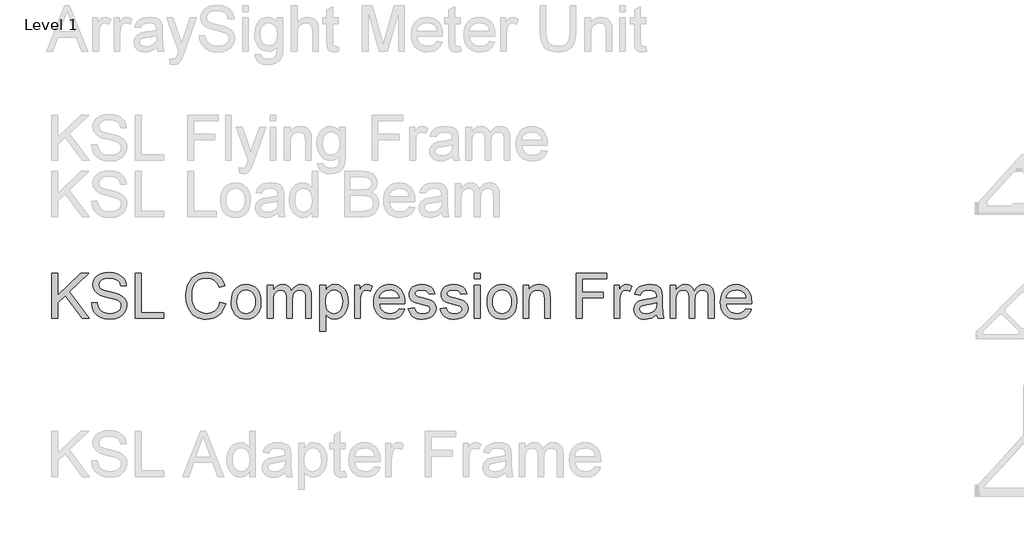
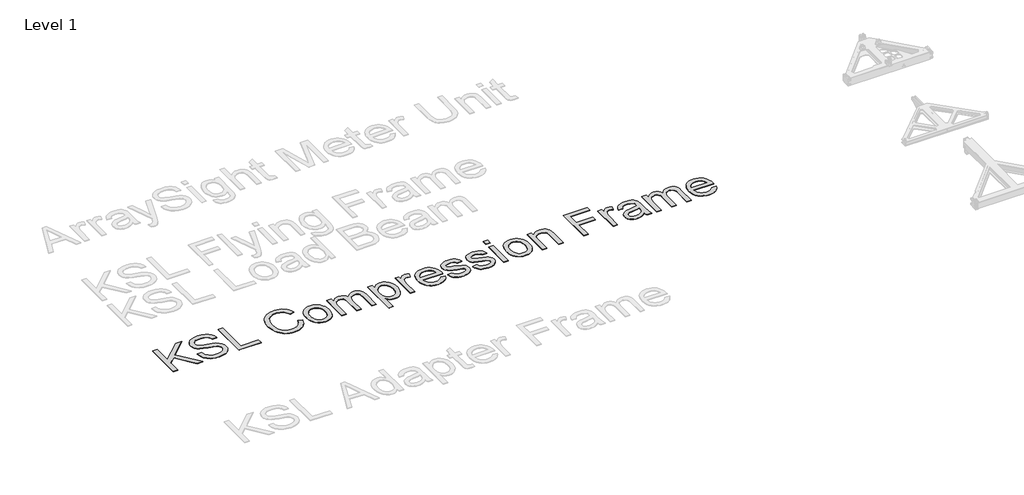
# One storey, part 18 of 52: 1 proxy.
"""IFC4 building model written with IfcOpenShell, lengths in millimetres."""

from ifc_helpers import new_model, si_unit, origin, origin_with_axes, place, context, project, spatial, polyline, outline, extrude, element, save

model = new_model("IFC4")

# Units and contexts
model_context = context("Model", 3, world=origin())
ifc_project = project(units=[si_unit("LENGTHUNIT", "METRE", prefix="MILLI")], contexts=[model_context])

# Site, building, storey
site = spatial("IfcSite", under=ifc_project)
building = spatial("IfcBuilding", under=site)
storey = spatial("IfcBuildingStorey", under=building, Name="Level 1", Elevation=0.0)

# Proxy
placement = place(None, origin())
element("IfcBuildingElementProxy", 1, Name="400mm Arial", ObjectType="400mm Arial", at=placement, inside=storey, context=model_context, shape_type="SweptSolid", body=[
    extrude(outline(polyline([(-18951.0715058, -56622.6117308), (-18951.0715058, -56220.7864902), (-18900.8433507, -56220.7864902), (-18900.8433507, -56417.4807303), (-18694.8294334, -56220.7864902), (-18624.5884978, -56220.7864902), (-18797.5420864, -56385.9900315), (-18618.3099784, -56622.6117308), (-18679.7217461, -56622.6117308), (-18833.1530636, -56419.933277), (-18900.8433507, -56484.4843044), (-18900.8433507, -56622.6117308), (-18951.0715058, -56622.6117308)])), origin_with_axes(), (0.0, 0.0, 1.0), 5.0),
    extrude(outline(polyline([(-18599.4744202, -56484.4843044), (-18549.2462652, -56484.4843044), (-18543.4827806, -56512.3574969), (-18533.0594574, -56534.7615104), (-18516.7990732, -56552.5424735), (-18493.5244056, -56566.5465148), (-18465.0748647, -56575.6332001), (-18433.2898603, -56578.6620952), (-18405.3063032, -56576.3689641), (-18380.8053623, -56569.4895707), (-18360.9519973, -56558.6002637), (-18346.9111678, -56544.2773913), (-18338.5602465, -56527.8330662), (-18335.7766061, -56510.5794006), (-18337.8612707, -56493.7671934), (-18344.1152646, -56479.2358546), (-18356.8194562, -56466.8382314), (-18378.2547138, -56456.4271709), (-18451.3896544, -56437.2482562), (-18499.3982548, -56424.5563274), (-18530.1164014, -56412.4775352), (-18555.1201143, -56395.5794889), (-18572.8397638, -56375.1007245), (-18583.397977, -56351.4827004), (-18586.9173815, -56325.166875), (-18582.5641112, -56295.7485781), (-18569.5043004, -56268.316844), (-18548.0813055, -56245.0667019), (-18518.6384832, -56228.1931811), (-18483.2972862, -56217.9292734), (-18444.1791673, -56214.5079709), (-18401.7991615, -56218.0886889), (-18364.7166564, -56228.8308432), (-18334.2560272, -56246.5137044), (-18311.7416491, -56270.9165435), (-18297.4923531, -56300.5187813), (-18291.8269704, -56333.7998392), (-18342.0551255, -56333.7998392), (-18351.2767008, -56303.8297193), (-18359.6398848, -56291.9716563), (-18370.5046664, -56282.198258), (-18400.5483627, -56269.1016589), (-18442.21713, -56264.7361259), (-18484.866916, -56269.052608), (-18501.1702198, -56274.4482106), (-18514.1257973, -56282.0020542), (-18531.0483691, -56301.0583416), (-18536.6892264, -56323.695347), (-18532.6915754, -56342.996889), (-18520.6986223, -56358.5215092), (-18492.3471832, -56372.4029232), (-18438.6854629, -56386.5786427), (-18383.3069599, -56400.0431238), (-18349.8051728, -56411.7908221), (-18321.1716909, -56430.0132436), (-18301.1956985, -56452.5030963), (-18289.4602629, -56479.0151254), (-18285.548451, -56509.3040763), (-18290.0488741, -56540.2674776), (-18303.5501433, -56569.3914689), (-18325.5004357, -56594.4564955), (-18355.3479282, -56613.2430027), (-18391.2409482, -56624.9784383), (-18431.327823, -56628.8902502), (-18480.5381712, -56624.67187), (-18521.0419789, -56612.0167294), (-18553.3052298, -56590.8757774), (-18577.793908, -56561.1999631), (-18593.5147319, -56525.0494257), (-18599.4744202, -56484.4843044)])), origin_with_axes(), (0.0, 0.0, 1.0), 5.0),
    extrude(outline(polyline([(-18210.2062184, -56622.6117308), (-18210.2062184, -56220.7864902), (-18159.9780633, -56220.7864902), (-18159.9780633, -56572.3835758), (-17959.065443, -56572.3835758), (-17959.065443, -56622.6117308), (-18210.2062184, -56622.6117308)])), origin_with_axes(), (0.0, 0.0, 1.0), 5.0),
    extrude(outline(polyline([(-17463.0624117, -56479.7754149), (-17412.8342566, -56492.7248611), (-17422.7732018, -56523.9611082), (-17436.0108223, -56551.2548865), (-17452.547118, -56574.6061962), (-17472.3820889, -56594.0150371), (-17495.0681452, -56609.2729428), (-17520.1576973, -56620.1714469), (-17547.6507451, -56626.7105494), (-17577.5472886, -56628.8902502), (-17608.1765303, -56627.2409126), (-17635.8075339, -56622.2928998), (-17660.4402991, -56614.0462117), (-17682.0748261, -56602.5008484), (-17701.0084861, -56587.8284882), (-17717.5386505, -56570.2008093), (-17731.6653191, -56549.6178116), (-17743.388492, -56526.0794953), (-17759.1706296, -56474.208134), (-17764.4313421, -56418.6579527), (-17758.4839165, -56360.0666136), (-17751.0496345, -56333.7691823), (-17740.6416398, -56309.4705766), (-17727.4929241, -56287.5724008), (-17711.8364795, -56268.4762596), (-17693.672306, -56252.1821529), (-17673.0004036, -56238.6900807), (-17650.5228137, -56228.1104076), (-17626.9415778, -56220.5534983), (-17576.468168, -56214.5079709), (-17547.7396499, -56216.4638768), (-17521.3962334, -56222.3315946), (-17497.4379184, -56232.1111243), (-17475.8647051, -56245.8024659), (-17457.0322126, -56263.0438688), (-17441.2960603, -56283.4735822), (-17428.6562481, -56307.0916063), (-17419.112776, -56333.897941), (-17469.340931, -56345.8663686), (-17486.7540122, -56309.2375846), (-17510.5437145, -56284.1112444), (-17541.0043437, -56269.5799055), (-17578.4302053, -56264.7361259), (-17621.5705007, -56270.1072031), (-17640.2527746, -56276.8210495), (-17657.0097995, -56286.2204345), (-17683.9019734, -56311.3835629), (-17701.4008936, -56343.9043313), (-17711.0026137, -56380.6680054), (-17714.203187, -56418.5598509), (-17710.4140025, -56464.9620332), (-17699.0464488, -56505.0856961), (-17679.6713304, -56537.397998), (-17651.8594516, -56560.3660973), (-17618.5170801, -56574.0880957), (-17582.5504837, -56578.6620952), (-17560.7136216, -56577.104728), (-17540.624199, -56572.4326267), (-17522.2822158, -56564.6457911), (-17505.6876722, -56553.7442213), (-17491.2329754, -56539.7769683), (-17479.3105331, -56522.7930828), (-17469.9203452, -56502.792565), (-17463.0624117, -56479.7754149)])), origin_with_axes(), (0.0, 0.0, 1.0), 5.0),
    extrude(outline(polyline([(-17362.6061015, -56475.0665253), (-17359.8899061, -56436.8497174), (-17351.7413199, -56403.9181474), (-17338.1603429, -56376.2718155), (-17319.1469751, -56353.9107216), (-17300.0048487, -56339.6185061), (-17278.8761594, -56329.4097807), (-17255.7609074, -56323.2845455), (-17230.6590926, -56321.2428004), (-17202.9483813, -56323.7290695), (-17177.8925517, -56331.187877), (-17155.4916039, -56343.6192228), (-17135.7455378, -56361.0231068), (-17119.6292407, -56382.810918), (-17108.1176, -56408.3940451), (-17101.2106155, -56437.7724881), (-17098.9082874, -56470.946247), (-17102.9795148, -56521.6894368), (-17115.193197, -56560.3170463), (-17135.1937148, -56589.2448339), (-17162.6254489, -56610.8885579), (-17195.207531, -56624.3898272), (-17230.6590926, -56628.8902502), (-17258.7744741, -56626.4131781), (-17284.0632955, -56618.9819618), (-17306.525557, -56606.5966013), (-17326.1612585, -56589.2570966), (-17342.1058773, -56567.2577533), (-17353.4948908, -56540.892877), (-17360.3282988, -56510.1624677), (-17362.6061015, -56475.0665253)]), holes=[polyline([(-17312.3779464, -56474.9684234), (-17310.9248126, -56499.3314086), (-17306.5654109, -56520.4263753), (-17299.2997415, -56538.2533237), (-17289.1278043, -56552.8122536), (-17276.7547066, -56564.1215593), (-17262.8855554, -56572.1996348), (-17247.5203507, -56577.0464801), (-17230.6590926, -56578.6620952), (-17213.8836736, -56577.037283), (-17198.5797826, -56572.1628466), (-17184.7474196, -56564.0387858), (-17172.3865845, -56552.6651008), (-17162.2146474, -56537.9620838), (-17154.948978, -56519.8500269), (-17150.5895763, -56498.3289301), (-17149.1364424, -56473.3987936), (-17150.5987734, -56449.8083607), (-17154.9857662, -56429.2652169), (-17162.2974208, -56411.7693624), (-17172.5337373, -56397.320797), (-17184.9405576, -56386.0114913), (-17198.7637236, -56377.9334159), (-17214.0032352, -56373.0865706), (-17230.6590926, -56371.4709555), (-17247.5203507, -56373.0804392), (-17262.8855554, -56377.9088904), (-17276.7547066, -56385.956309), (-17289.1278043, -56397.2226951), (-17299.2997415, -56411.7387055), (-17306.5654109, -56429.534997), (-17310.9248126, -56450.6115697), (-17312.3779464, -56474.9684234)])]), origin_with_axes(), (0.0, 0.0, 1.0), 5.0),
    extrude(outline(polyline([(-17042.4016129, -56622.6117308), (-17042.4016129, -56327.5213198), (-16992.1734578, -56327.5213198), (-16992.1734578, -56376.0817431), (-16977.0657706, -56353.7758315), (-16957.6416012, -56336.3014367), (-16934.5631374, -56325.0074595), (-16908.4925667, -56321.2428004), (-16880.5580605, -56325.0810359), (-16858.1663097, -56336.5957423), (-16841.4399417, -56355.0266303), (-16830.5015837, -56379.6134103), (-16812.1933231, -56354.0762685), (-16791.3098885, -56335.8354529), (-16767.8512799, -56324.8909635), (-16741.8174974, -56321.2428004), (-16721.7096807, -56322.7603136), (-16704.0605419, -56327.3128533), (-16688.8700812, -56334.9004195), (-16676.1382985, -56345.5230121), (-16666.0736603, -56359.3032585), (-16658.8846329, -56376.363786), (-16654.5712165, -56396.7045947), (-16653.1334111, -56420.3256844), (-16653.1334111, -56622.6117308), (-16703.3615662, -56622.6117308), (-16703.3615662, -56441.9080948), (-16704.5265258, -56416.8553309), (-16708.0214048, -56399.9695474), (-16714.5697043, -56388.40579), (-16724.8949256, -56379.3191047), (-16738.1754656, -56373.4329928), (-16753.5897212, -56371.4709555), (-16780.8007261, -56376.4986761), (-16802.9840104, -56391.5818379), (-16811.5893835, -56403.1517266), (-16817.7360785, -56417.7505105), (-16822.6534345, -56456.0347634), (-16822.6534345, -56622.6117308), (-16872.8815895, -56622.6117308), (-16872.8815895, -56436.3162885), (-16875.7878573, -56407.9157985), (-16884.5066606, -56387.6577633), (-16899.8473398, -56375.5176574), (-16922.6192353, -56371.4709555), (-16941.9698282, -56374.1687568), (-16959.7998423, -56382.2621607), (-16974.5151221, -56395.5549634), (-16984.5215123, -56413.8509613), (-16990.2604715, -56439.234819), (-16992.1734578, -56473.7912011), (-16992.1734578, -56622.6117308), (-17042.4016129, -56622.6117308)])), origin_with_axes(), (0.0, 0.0, 1.0), 5.0),
    extrude(outline(polyline([(-16577.7911785, -56735.6250798), (-16577.7911785, -56327.5213198), (-16527.5630234, -56327.5213198), (-16527.5630234, -56376.7684562), (-16511.1800119, -56352.4759818), (-16492.834963, -56335.1242143), (-16471.4487564, -56324.7131539), (-16445.9422714, -56321.2428004), (-16411.9745005, -56326.0988427), (-16382.2741608, -56340.6669697), (-16358.0920509, -56364.0642646), (-16340.6789698, -56395.4078106), (-16330.1575448, -56432.4167393), (-16326.6504031, -56472.8101824), (-16330.6112659, -56515.7665367), (-16342.4938544, -56554.1856797), (-16361.9180237, -56586.1178369), (-16388.5036292, -56609.6132337), (-16419.4670305, -56624.0709961), (-16452.0245871, -56628.8902502), (-16475.1153136, -56625.6651514), (-16495.7289681, -56615.9898549), (-16513.3750411, -56601.3849397), (-16527.5630234, -56583.3709847), (-16527.5630234, -56735.6250798), (-16577.7911785, -56735.6250798)]), holes=[polyline([(-16527.5630234, -56477.4209701), (-16522.1306326, -56522.4497263), (-16515.3401441, -56539.8873329), (-16505.8334602, -56553.9404251), (-16481.7862405, -56572.4816776), (-16468.0243882, -56577.1169908), (-16453.1037076, -56578.6620952), (-16437.9684292, -56577.0618085), (-16423.9551908, -56572.2609484), (-16411.0639926, -56564.259515), (-16399.2948344, -56553.0575083), (-16389.4877136, -56538.4955126), (-16382.4826272, -56520.4141126), (-16378.2795754, -56498.8133081), (-16376.8785582, -56473.6930992), (-16382.3477372, -56428.9095977), (-16389.1842109, -56411.337101), (-16398.7552741, -56396.9774405), (-16422.7657057, -56377.8475767), (-16436.3712082, -56373.0651108), (-16451.0435684, -56371.4709555), (-16465.6699434, -56373.1662783), (-16479.4317957, -56378.2522469), (-16504.3619322, -56398.5961212), (-16514.5124096, -56413.6946115), (-16521.7627506, -56431.8649163), (-16526.1129552, -56453.1070359), (-16527.5630234, -56477.4209701)])]), origin_with_axes(), (0.0, 0.0, 1.0), 5.0),
    extrude(outline(polyline([(-16270.1437286, -56622.6117308), (-16270.1437286, -56327.5213198), (-16226.1940929, -56327.5213198), (-16226.1940929, -56371.1766499), (-16209.9582342, -56345.8663686), (-16194.9976998, -56330.9548851), (-16179.9881144, -56323.6708216), (-16163.6051028, -56321.2428004), (-16138.5891272, -56325.1178241), (-16113.180744, -56336.7428951), (-16129.956163, -56381.7716513), (-16147.6144988, -56374.0461294), (-16165.2728345, -56371.4709555), (-16180.2701572, -56373.9480276), (-16193.6733246, -56381.3792439), (-16204.501318, -56393.2005187), (-16211.7731187, -56408.8477662), (-16217.8799599, -56436.9048997), (-16219.9155736, -56467.5126817), (-16219.9155736, -56622.6117308), (-16270.1437286, -56622.6117308)])), origin_with_axes(), (0.0, 0.0, 1.0), 5.0),
    extrude(outline(polyline([(-15875.1856186, -56534.7124595), (-15825.9384822, -56540.9909788), (-15833.4892601, -56560.7155852), (-15843.6826571, -56578.0980094), (-15856.518673, -56593.1382517), (-15871.997308, -56605.8363119), (-15889.9591464, -56615.9224099), (-15910.2447728, -56623.1267656), (-15957.7873893, -56628.8902502), (-15988.9531256, -56626.4039811), (-16016.7220849, -56618.9451736), (-16041.0942671, -56606.5138279), (-16062.0696722, -56589.1099438), (-16078.9370616, -56567.2178994), (-16090.985197, -56541.3220726), (-16098.2140782, -56511.4224635), (-16100.6237053, -56477.5190719), (-16098.1895527, -56442.4660492), (-16090.8870951, -56411.5700929), (-16078.7163324, -56384.8312033), (-16061.6772647, -56362.2493801), (-16040.7570419, -56344.3090015), (-16016.9428141, -56331.4944453), (-15990.2345812, -56323.8057116), (-15960.6323434, -56321.2428004), (-15931.983533, -56323.7995803), (-15906.0754435, -56331.4699199), (-15882.9080748, -56344.2538192), (-15862.481427, -56362.1512783), (-15845.8071756, -56384.6840505), (-15833.896996, -56411.3738892), (-15826.7508883, -56442.2207945), (-15824.3688523, -56477.2247664), (-15824.6631579, -56490.7628238), (-16050.3955502, -56490.7628238), (-16047.4862167, -56510.8062611), (-16041.7012724, -56528.3603637), (-16033.0407171, -56543.4251314), (-16021.5045508, -56556.0005643), (-16007.7304358, -56565.914984), (-15992.3560341, -56572.9967124), (-15956.8063706, -56578.6620952), (-15930.0736123, -56576.0378703), (-15907.5592342, -56568.1651956), (-15889.2632363, -56554.5535617), (-15875.1856186, -56534.7124595)]), holes=[polyline([(-16050.3955502, -56440.5346687), (-15874.5970074, -56440.5346687), (-15881.3905616, -56413.9981141), (-15894.7078898, -56395.0154032), (-15908.4053628, -56384.7147073), (-15923.9912966, -56377.3570674), (-15941.4656914, -56372.9424835), (-15960.8285471, -56371.4709555), (-15994.6859534, -56376.1675823), (-16022.6817732, -56390.2574627), (-16042.1427308, -56412.2200178), (-16050.3955502, -56440.5346687)])]), origin_with_axes(), (0.0, 0.0, 1.0), 5.0),
    extrude(outline(polyline([(-15792.9762554, -56534.7124595), (-15742.7481003, -56528.4339401), (-15734.8263747, -56549.9182486), (-15719.4979583, -56565.7126489), (-15696.6647491, -56575.4247336), (-15666.2286454, -56578.6620952), (-15636.1604236, -56575.6945137), (-15615.0194716, -56566.7917694), (-15602.5114838, -56553.8913741), (-15598.3421545, -56538.9308397), (-15602.5360093, -56526.1285462), (-15615.1175735, -56516.3674106), (-15666.8172565, -56502.0445383), (-15742.4537948, -56477.470021), (-15761.5959212, -56465.1214487), (-15775.4650725, -56448.7752254), (-15783.8895701, -56429.4736834), (-15786.697736, -56408.259155), (-15784.4413931, -56388.7981974), (-15777.6723644, -56370.8332933), (-15767.0037866, -56355.0756812), (-15753.0487962, -56342.2365996), (-15721.116639, -56327.374167), (-15700.2332044, -56322.775642), (-15677.9027673, -56321.2428004), (-15645.2103207, -56323.7076098), (-15616.7853052, -56331.1020379), (-15593.9275706, -56342.7025834), (-15577.9369665, -56357.7857453), (-15567.341965, -56377.467432), (-15560.6710382, -56402.8635524), (-15610.8991933, -56409.1420718), (-15617.2390263, -56393.3354087), (-15629.7838024, -56381.4282948), (-15648.6561487, -56373.9602903), (-15673.9786927, -56371.4709555), (-15702.8206411, -56373.8499257), (-15722.0486068, -56380.9868364), (-15732.8643374, -56391.2875323), (-15736.469581, -56403.157858), (-15730.4853672, -56417.7750359), (-15711.7479109, -56428.8605467), (-15668.4849883, -56439.55365), (-15594.7614364, -56463.1961996), (-15575.2882161, -56474.5024396), (-15560.5238854, -56489.9780089), (-15551.2164709, -56509.6719583), (-15548.1139994, -56533.6333389), (-15551.7560312, -56558.40406), (-15562.6821264, -56581.703253), (-15580.4753523, -56601.7037708), (-15604.7187758, -56616.5784661), (-15634.0021826, -56625.8123042), (-15666.9153584, -56628.8902502), (-15693.9485537, -56627.4064595), (-15717.5604464, -56622.9550874), (-15737.7510366, -56615.5361338), (-15754.5203242, -56605.1495988), (-15768.2177971, -56591.8445333), (-15779.1929433, -56575.6699883), (-15787.4457628, -56556.6259636), (-15792.9762554, -56534.7124595)])), origin_with_axes(), (0.0, 0.0, 1.0), 5.0),
    extrude(outline(polyline([(-15510.4428831, -56534.7124595), (-15460.2147281, -56528.4339401), (-15452.2930024, -56549.9182486), (-15436.964586, -56565.7126489), (-15414.1313768, -56575.4247336), (-15383.6952731, -56578.6620952), (-15353.6270513, -56575.6945137), (-15332.4860993, -56566.7917694), (-15319.9781115, -56553.8913741), (-15315.8087822, -56538.9308397), (-15320.002637, -56526.1285462), (-15332.5842012, -56516.3674106), (-15384.2838842, -56502.0445383), (-15459.9204225, -56477.470021), (-15479.0625489, -56465.1214487), (-15492.9317002, -56448.7752254), (-15501.3561978, -56429.4736834), (-15504.1643637, -56408.259155), (-15501.9080208, -56388.7981974), (-15495.1389921, -56370.8332933), (-15484.4704143, -56355.0756812), (-15470.5154239, -56342.2365996), (-15438.5832667, -56327.374167), (-15417.6998321, -56322.775642), (-15395.369395, -56321.2428004), (-15362.6769484, -56323.7076098), (-15334.2519329, -56331.1020379), (-15311.3941983, -56342.7025834), (-15295.4035942, -56357.7857453), (-15284.8085928, -56377.467432), (-15278.1376659, -56402.8635524), (-15328.365821, -56409.1420718), (-15334.705654, -56393.3354087), (-15347.2504301, -56381.4282948), (-15366.1227764, -56373.9602903), (-15391.4453204, -56371.4709555), (-15420.2872688, -56373.8499257), (-15439.5152345, -56380.9868364), (-15450.3309651, -56391.2875323), (-15453.9362087, -56403.157858), (-15447.9519949, -56417.7750359), (-15429.2145386, -56428.8605467), (-15385.951616, -56439.55365), (-15312.2280641, -56463.1961996), (-15292.7548438, -56474.5024396), (-15277.9905131, -56489.9780089), (-15268.6830986, -56509.6719583), (-15265.5806271, -56533.6333389), (-15269.2226589, -56558.40406), (-15280.1487541, -56581.703253), (-15297.94198, -56601.7037708), (-15322.1854035, -56616.5784661), (-15351.4688103, -56625.8123042), (-15384.3819861, -56628.8902502), (-15411.4151814, -56627.4064595), (-15435.0270741, -56622.9550874), (-15455.2176643, -56615.5361338), (-15471.9869519, -56605.1495988), (-15485.6844249, -56591.8445333), (-15496.659571, -56575.6699883), (-15504.9123905, -56556.6259636), (-15510.4428831, -56534.7124595)])), origin_with_axes(), (0.0, 0.0, 1.0), 5.0),
    extrude(outline(polyline([(-15209.0739527, -56271.0146453), (-15209.0739527, -56220.7864902), (-15158.8457976, -56220.7864902), (-15158.8457976, -56271.0146453), (-15209.0739527, -56271.0146453)])), origin_with_axes(), (0.0, 0.0, 1.0), 5.0),
    extrude(outline(polyline([(-15209.0739527, -56622.6117308), (-15209.0739527, -56327.5213198), (-15158.8457976, -56327.5213198), (-15158.8457976, -56622.6117308), (-15209.0739527, -56622.6117308)])), origin_with_axes(), (0.0, 0.0, 1.0), 5.0),
    extrude(outline(polyline([(-15096.0606038, -56475.0665253), (-15093.3444084, -56436.8497174), (-15085.1958222, -56403.9181474), (-15071.6148452, -56376.2718155), (-15052.6014774, -56353.9107216), (-15033.4593509, -56339.6185061), (-15012.3306617, -56329.4097807), (-14989.2154096, -56323.2845455), (-14964.1135948, -56321.2428004), (-14936.4028835, -56323.7290695), (-14911.347054, -56331.187877), (-14888.9461062, -56343.6192228), (-14869.2000401, -56361.0231068), (-14853.083743, -56382.810918), (-14841.5721022, -56408.3940451), (-14834.6651178, -56437.7724881), (-14832.3627896, -56470.946247), (-14836.434017, -56521.6894368), (-14848.6476993, -56560.3170463), (-14868.6482171, -56589.2448339), (-14896.0799512, -56610.8885579), (-14928.6620332, -56624.3898272), (-14964.1135948, -56628.8902502), (-14992.2289763, -56626.4131781), (-15017.5177978, -56618.9819618), (-15039.9800593, -56606.5966013), (-15059.6157608, -56589.2570966), (-15075.5603796, -56567.2577533), (-15086.949393, -56540.892877), (-15093.7828011, -56510.1624677), (-15096.0606038, -56475.0665253)]), holes=[polyline([(-15045.8324487, -56474.9684234), (-15044.3793148, -56499.3314086), (-15040.0199132, -56520.4263753), (-15032.7542438, -56538.2533237), (-15022.5823066, -56552.8122536), (-15010.2092088, -56564.1215593), (-14996.3400576, -56572.1996348), (-14980.9748529, -56577.0464801), (-14964.1135948, -56578.6620952), (-14947.3381758, -56577.037283), (-14932.0342848, -56572.1628466), (-14918.2019218, -56564.0387858), (-14905.8410868, -56552.6651008), (-14895.6691496, -56537.9620838), (-14888.4034802, -56519.8500269), (-14884.0440786, -56498.3289301), (-14882.5909447, -56473.3987936), (-14884.0532756, -56449.8083607), (-14888.4402684, -56429.2652169), (-14895.7519231, -56411.7693624), (-14905.9882396, -56397.320797), (-14918.3950599, -56386.0114913), (-14932.2182258, -56377.9334159), (-14947.4577375, -56373.0865706), (-14964.1135948, -56371.4709555), (-14980.9748529, -56373.0804392), (-14996.3400576, -56377.9088904), (-15010.2092088, -56385.956309), (-15022.5823066, -56397.2226951), (-15032.7542438, -56411.7387055), (-15040.0199132, -56429.534997), (-15044.3793148, -56450.6115697), (-15045.8324487, -56474.9684234)])]), origin_with_axes(), (0.0, 0.0, 1.0), 5.0),
    extrude(outline(polyline([(-14775.8561152, -56622.6117308), (-14775.8561152, -56327.5213198), (-14725.6279601, -56327.5213198), (-14725.6279601, -56368.7241032), (-14708.1780908, -56347.9510332), (-14687.2210798, -56333.1131261), (-14662.7569271, -56324.2103818), (-14634.7856327, -56321.2428004), (-14610.0271745, -56323.6340334), (-14587.3533808, -56330.8077323), (-14568.4442463, -56341.8687176), (-14554.9797653, -56355.9218098), (-14545.844029, -56372.9302207), (-14539.9211289, -56392.8571621), (-14537.2723786, -56441.4175855), (-14537.2723786, -56622.6117308), (-14587.5005336, -56622.6117308), (-14587.5005336, -56448.1866142), (-14588.9475361, -56422.2141453), (-14593.2885437, -56403.7464692), (-14601.2961084, -56390.5149801), (-14613.7427826, -56380.2510724), (-14629.6965985, -56373.6659847), (-14648.2255883, -56371.4709555), (-14677.6438852, -56376.4005742), (-14702.7211745, -56391.1894304), (-14712.7428932, -56403.2620912), (-14719.9012637, -56419.7615987), (-14724.196286, -56440.6879529), (-14725.6279601, -56466.0411537), (-14725.6279601, -56622.6117308), (-14775.8561152, -56622.6117308)])), origin_with_axes(), (0.0, 0.0, 1.0), 5.0),
    extrude(outline(polyline([(-14304.9671613, -56622.6117308), (-14304.9671613, -56220.7864902), (-14034.9908278, -56220.7864902), (-14034.9908278, -56271.0146453), (-14254.7390063, -56271.0146453), (-14254.7390063, -56390.3065136), (-14066.3834247, -56390.3065136), (-14066.3834247, -56440.5346687), (-14254.7390063, -56440.5346687), (-14254.7390063, -56622.6117308), (-14304.9671613, -56622.6117308)])), origin_with_axes(), (0.0, 0.0, 1.0), 5.0),
    extrude(outline(polyline([(-13972.205634, -56622.6117308), (-13972.205634, -56327.5213198), (-13928.2559983, -56327.5213198), (-13928.2559983, -56371.1766499), (-13912.0201396, -56345.8663686), (-13897.0596051, -56330.9548851), (-13882.0500197, -56323.6708216), (-13865.6670082, -56321.2428004), (-13840.6510325, -56325.1178241), (-13815.2426494, -56336.7428951), (-13832.0180683, -56381.7716513), (-13849.6764041, -56374.0461294), (-13867.3347399, -56371.4709555), (-13882.3320625, -56373.9480276), (-13895.7352299, -56381.3792439), (-13906.5632233, -56393.2005187), (-13913.8350241, -56408.8477662), (-13919.9418652, -56436.9048997), (-13921.9774789, -56467.5126817), (-13921.9774789, -56622.6117308), (-13972.205634, -56622.6117308)])), origin_with_axes(), (0.0, 0.0, 1.0), 5.0),
    extrude(outline(polyline([(-13595.4944709, -56584.9406145), (-13619.4926397, -56605.5174808), (-13644.2020471, -56618.9819618), (-13670.1867787, -56626.4131781), (-13698.0109202, -56628.8902502), (-13720.3750798, -56627.4003281), (-13739.9862559, -56622.9305619), (-13756.8444483, -56615.4809515), (-13770.9496571, -56605.0514969), (-13782.0872845, -56592.3043858), (-13790.0427327, -56577.9018057), (-13794.8160016, -56561.8437566), (-13796.4070912, -56544.1302385), (-13794.0035955, -56523.3081176), (-13786.7931084, -56504.3989831), (-13775.6708094, -56488.2121753), (-13761.5318781, -56475.5570346), (-13744.9158746, -56465.9921028), (-13726.3623593, -56459.0759213), (-13682.903233, -56451.5220776), (-13631.5469064, -56443.5758265), (-13595.7887765, -56434.2561493), (-13595.4944709, -56423.0725367), (-13598.9525617, -56400.6562604), (-13609.3268339, -56385.9900315), (-13632.5279251, -56375.1007245), (-13664.8524897, -56371.4709555), (-13694.7735587, -56373.8867139), (-13715.669256, -56381.1339892), (-13729.9185519, -56394.5371566), (-13739.9004167, -56415.4205912), (-13790.1285718, -56409.1420718), (-13781.4097685, -56381.6735495), (-13768.3990086, -56360.0911391), (-13749.8822815, -56343.5855002), (-13724.6455767, -56331.3472925), (-13693.7802773, -56323.7689234), (-13658.3777666, -56321.2428004), (-13624.4222585, -56323.4746178), (-13597.5055591, -56330.1700701), (-13577.2107357, -56340.2377741), (-13563.1208553, -56352.5863464), (-13553.7766526, -56367.8534492), (-13547.7188625, -56386.6767446), (-13545.2663158, -56430.6263803), (-13545.2663158, -56493.1172685), (-13542.7156673, -56580.3788778), (-13532.7092771, -56622.6117308), (-13582.9374321, -56622.6117308), (-13590.9817851, -56605.1495988), (-13595.4944709, -56584.9406145)]), holes=[polyline([(-13595.4944709, -56484.4843044), (-13629.2415126, -56492.8474884), (-13676.5266117, -56499.8862973), (-13719.7404834, -56508.0287521), (-13730.9854097, -56513.5960329), (-13739.3118055, -56521.2725039), (-13744.4621535, -56530.4695538), (-13746.1789361, -56540.5985714), (-13742.4388025, -56555.5345804), (-13731.2184017, -56567.7727881), (-13712.7629882, -56575.9397684), (-13687.3178169, -56578.6620952), (-13660.3398039, -56575.6577255), (-13636.5010506, -56566.6446166), (-13617.1749832, -56553.3640766), (-13603.7350276, -56537.5574136), (-13597.7753393, -56521.2725039), (-13595.7887765, -56498.7090749), (-13595.4944709, -56484.4843044)])]), origin_with_axes(), (0.0, 0.0, 1.0), 5.0),
    extrude(outline(polyline([(-13476.2026026, -56622.6117308), (-13476.2026026, -56327.5213198), (-13425.9744475, -56327.5213198), (-13425.9744475, -56376.0817431), (-13410.8667603, -56353.7758315), (-13391.4425909, -56336.3014367), (-13368.3641271, -56325.0074595), (-13342.2935564, -56321.2428004), (-13314.3590502, -56325.0810359), (-13291.9672994, -56336.5957423), (-13275.2409314, -56355.0266303), (-13264.3025734, -56379.6134103), (-13245.9943128, -56354.0762685), (-13225.1108782, -56335.8354529), (-13201.6522696, -56324.8909635), (-13175.6184871, -56321.2428004), (-13155.5106704, -56322.7603136), (-13137.8615316, -56327.3128533), (-13122.6710709, -56334.9004195), (-13109.9392882, -56345.5230121), (-13099.8746499, -56359.3032585), (-13092.6856226, -56376.363786), (-13088.3722062, -56396.7045947), (-13086.9344008, -56420.3256844), (-13086.9344008, -56622.6117308), (-13137.1625558, -56622.6117308), (-13137.1625558, -56441.9080948), (-13138.3275155, -56416.8553309), (-13141.8223945, -56399.9695474), (-13148.370694, -56388.40579), (-13158.6959153, -56379.3191047), (-13171.9764553, -56373.4329928), (-13187.3907109, -56371.4709555), (-13214.6017158, -56376.4986761), (-13236.7850001, -56391.5818379), (-13245.3903731, -56403.1517266), (-13251.5370681, -56417.7505105), (-13256.4544241, -56456.0347634), (-13256.4544241, -56622.6117308), (-13306.6825792, -56622.6117308), (-13306.6825792, -56436.3162885), (-13309.588847, -56407.9157985), (-13318.3076503, -56387.6577633), (-13333.6483295, -56375.5176574), (-13356.420225, -56371.4709555), (-13375.7708179, -56374.1687568), (-13393.6008319, -56382.2621607), (-13408.3161118, -56395.5549634), (-13418.322502, -56413.8509613), (-13424.0614611, -56439.234819), (-13425.9744475, -56473.7912011), (-13425.9744475, -56622.6117308), (-13476.2026026, -56622.6117308)])), origin_with_axes(), (0.0, 0.0, 1.0), 5.0),
    extrude(outline(polyline([(-12804.9896397, -56534.7124595), (-12755.7425032, -56540.9909788), (-12763.2932812, -56560.7155852), (-12773.4866781, -56578.0980094), (-12786.3226941, -56593.1382517), (-12801.801329, -56605.8363119), (-12819.7631675, -56615.9224099), (-12840.0487938, -56623.1267656), (-12887.5914103, -56628.8902502), (-12918.7571467, -56626.4039811), (-12946.5261059, -56618.9451736), (-12970.8982881, -56606.5138279), (-12991.8736932, -56589.1099438), (-13008.7410827, -56567.2178994), (-13020.789218, -56541.3220726), (-13028.0180992, -56511.4224635), (-13030.4277263, -56477.5190719), (-13027.9935738, -56442.4660492), (-13020.6911162, -56411.5700929), (-13008.5203535, -56384.8312033), (-12991.4812858, -56362.2493801), (-12970.561063, -56344.3090015), (-12946.7468351, -56331.4944453), (-12920.0386023, -56323.8057116), (-12890.4363644, -56321.2428004), (-12861.787554, -56323.7995803), (-12835.8794645, -56331.4699199), (-12812.7120959, -56344.2538192), (-12792.2854481, -56362.1512783), (-12775.6111967, -56384.6840505), (-12763.7010171, -56411.3738892), (-12756.5549093, -56442.2207945), (-12754.1728734, -56477.2247664), (-12754.467179, -56490.7628238), (-12980.1995712, -56490.7628238), (-12977.2902378, -56510.8062611), (-12971.5052934, -56528.3603637), (-12962.8447381, -56543.4251314), (-12951.3085719, -56556.0005643), (-12937.5344568, -56565.914984), (-12922.1600551, -56572.9967124), (-12886.6103917, -56578.6620952), (-12859.8776333, -56576.0378703), (-12837.3632552, -56568.1651956), (-12819.0672573, -56554.5535617), (-12804.9896397, -56534.7124595)]), holes=[polyline([(-12980.1995712, -56440.5346687), (-12804.4010285, -56440.5346687), (-12811.1945827, -56413.9981141), (-12824.5119109, -56395.0154032), (-12838.2093838, -56384.7147073), (-12853.7953177, -56377.3570674), (-12871.2697125, -56372.9424835), (-12890.6325681, -56371.4709555), (-12924.4899744, -56376.1675823), (-12952.4857943, -56390.2574627), (-12971.9467518, -56412.2200178), (-12980.1995712, -56440.5346687)])]), origin_with_axes(), (0.0, 0.0, 1.0), 5.0),
])

save(model, "model.ifc")
